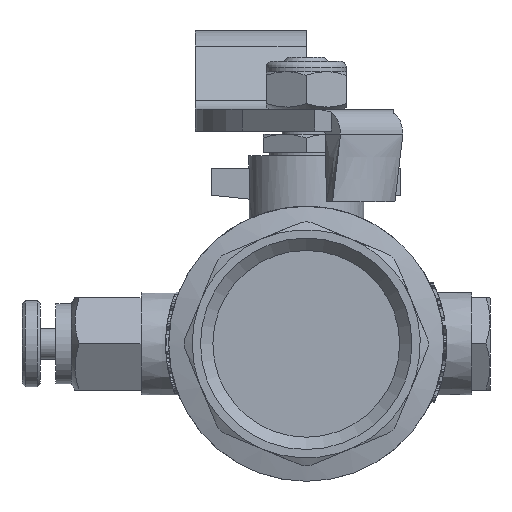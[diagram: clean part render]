
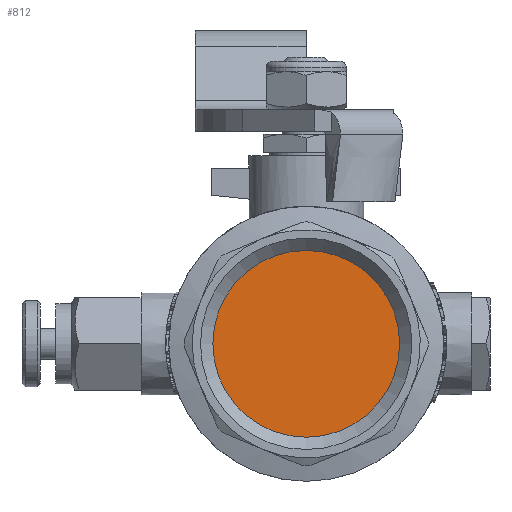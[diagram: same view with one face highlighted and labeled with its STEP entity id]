
A CAD part, front view. The second image highlights one B-rep face of the part: STEP entity #812.
In plain terms, the highlighted planar face has unit normal (0, -1, 0).
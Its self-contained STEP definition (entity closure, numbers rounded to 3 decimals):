
#812=ADVANCED_FACE('',(#5274),#5276,.F.);
#5274=FACE_BOUND('',#5275,.T.);
#5275=EDGE_LOOP('',(#10653));
#5276=PLANE('',#5277);
#5277=AXIS2_PLACEMENT_3D('',#5278,#5279,#5280);
#5278=CARTESIAN_POINT('',(0.,0.,0.));
#5279=DIRECTION('',(0.,1.,0.));
#5280=DIRECTION('',(1.,0.,0.));
#10653=ORIENTED_EDGE('',*,*,#12860,.T.);
#12860=EDGE_CURVE('',#16070,#16070,#16071,.T.);
#16070=VERTEX_POINT('',#34997);
#16071=CIRCLE('',#34998,15.146);
#34997=CARTESIAN_POINT('',(15.146,0.,0.));
#34998=AXIS2_PLACEMENT_3D('',#34999,#35000,#35001);
#34999=CARTESIAN_POINT('',(0.,0.,0.));
#35000=DIRECTION('',(0.,-1.,0.));
#35001=DIRECTION('',(1.,0.,0.));
